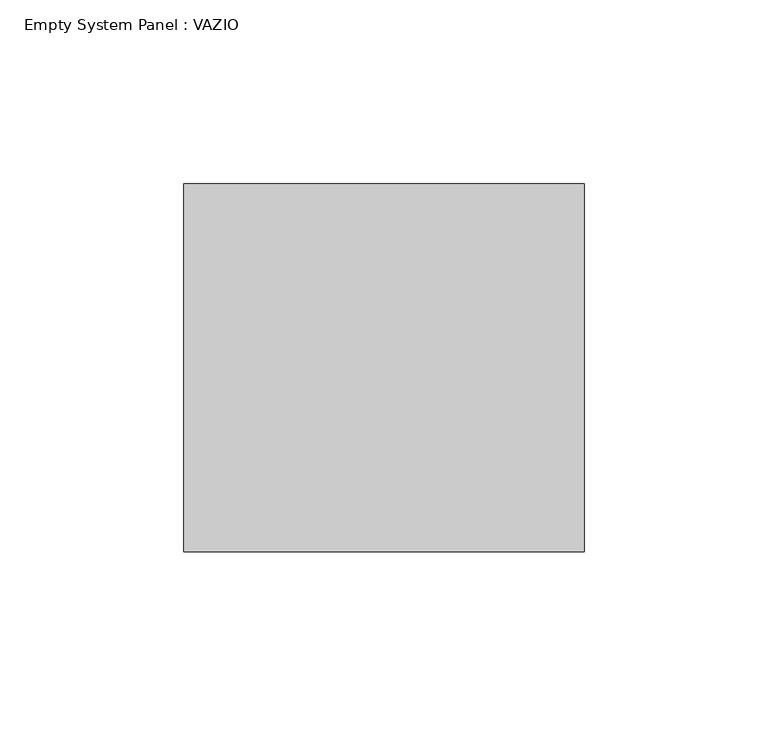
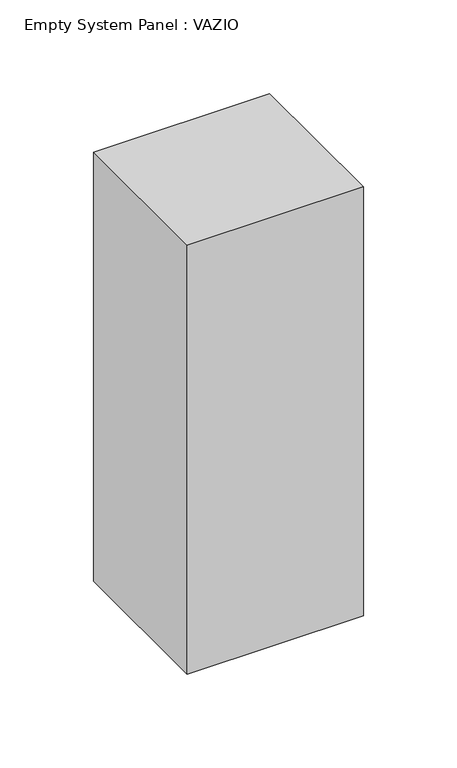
"""IFC4 building model written with IfcOpenShell, lengths in millimetres: plate geometry, Empty System Panel : VAZIO."""

import ifcopenshell
import ifcopenshell.guid

model = None  # the IFC model being written
_history = None  # IfcOwnerHistory: only IFC2X3 demands one
_inside = {}  # id of a spatial element -> (the spatial element, [elements in it])
_under = {}  # id of a project, library or spatial element -> (it, [spatial elements below it])
_declared = {}  # id of a project -> (the project, [libraries it declares])
_typed = {}  # id of a type object -> (the type object, [elements of that type])
_made_of = {}  # id of a material, layer set ... -> (it, [elements and type objects made of it])


def new_model(schema):
    """Start an empty IFC model of exactly this schema.

    Asked for "IFC4X3", IfcOpenShell would pick the latest addendum, in which some entities
    have other attributes; the version numbers below select the first issue.
    IFC2X3 requires an IfcOwnerHistory on every rooted entity: one is made here for all.
    """
    global model, _history
    if schema == "IFC4X3":
        model = ifcopenshell.file(schema_version=(4, 3, 0, 0))
    else:
        model = ifcopenshell.file(schema=schema)
    _inside.clear()
    _under.clear()
    _declared.clear()
    _typed.clear()
    _made_of.clear()
    _history = None
    if model.schema == "IFC2X3":
        org = make("IfcOrganization", Name="unknown")
        user = make(
            "IfcPersonAndOrganization",
            ThePerson=make("IfcPerson", FamilyName="unknown"),
            TheOrganization=org,
        )
        app = make(
            "IfcApplication",
            ApplicationDeveloper=org,
            Version="unknown",
            ApplicationFullName="unknown",
            ApplicationIdentifier="unknown",
        )
        _history = make(
            "IfcOwnerHistory",
            OwningUser=user,
            OwningApplication=app,
            ChangeAction="ADDED",
            CreationDate=0,
        )
    return model


def make(cls, **values):
    """One entity of the class cls with the attributes given. An attribute that is None is left unset."""
    return model.create_entity(
        cls, **{name: value for name, value in values.items() if value is not None}
    )


def rooted(cls, **values):
    """An entity with a GlobalId (a new one), such as an element, a storey or a relation."""
    return make(cls, GlobalId=ifcopenshell.guid.new(), OwnerHistory=_history, **values)


def si_unit(unit_type, name, prefix=None):
    """IfcSIUnit, for example si_unit("LENGTHUNIT", "METRE", prefix="MILLI")."""
    return make("IfcSIUnit", UnitType=unit_type, Prefix=prefix, Name=name)


def assignment(units):
    """IfcUnitAssignment: the units of a project."""
    return None if units is None else make("IfcUnitAssignment", Units=units)


def point(xyz):
    """IfcCartesianPoint."""
    return None if xyz is None else make("IfcCartesianPoint", Coordinates=xyz)


def direction(xyz):
    """IfcDirection."""
    return None if xyz is None else make("IfcDirection", DirectionRatios=xyz)


def frame(location, z_axis=None, x_axis=None):
    """IfcAxis2Placement3D, a coordinate frame: its origin and axes. An axis left out is left unset."""
    return make(
        "IfcAxis2Placement3D",
        Location=point(location),
        Axis=direction(z_axis),
        RefDirection=direction(x_axis),
    )


def origin():
    """The frame at (0, 0, 0) with its axes left unset."""
    return frame((0.0, 0.0, 0.0))


def origin_with_axes():
    """The frame at (0, 0, 0) with the z axis (0, 0, 1) and the x axis (1, 0, 0) written out."""
    return frame((0.0, 0.0, 0.0), z_axis=(0.0, 0.0, 1.0), x_axis=(1.0, 0.0, 0.0))


def place(relative_to, where):
    """IfcLocalPlacement: puts the frame where relative to a parent placement (None: the world)."""
    return make(
        "IfcLocalPlacement", PlacementRelTo=relative_to, RelativePlacement=where
    )


def context(
    kind, dimensions, precision=None, world=None, true_north=None, identifier=None
):
    """IfcGeometricRepresentationContext, for example the 3D "Model" context."""
    return make(
        "IfcGeometricRepresentationContext",
        ContextIdentifier=identifier,
        ContextType=kind,
        CoordinateSpaceDimension=dimensions,
        Precision=precision,
        WorldCoordinateSystem=world,
        TrueNorth=true_north,
    )


def project(units=None, contexts=None):
    """IfcProject with its units and contexts."""
    return rooted(
        "IfcProject",
        Name="project",
        RepresentationContexts=contexts,
        UnitsInContext=assignment(units),
    )


def spatial(cls, under=None, at=None, **own):
    """A site, building, storey or space (cls), placed at a placement, below another one or the project."""
    s = rooted(cls, ObjectPlacement=at, **own)
    if under is not None:
        _under.setdefault(under.id(), (under, []))[1].append(s)
    return s


def polyline(points):
    """IfcPolyline through the points."""
    return make("IfcPolyline", Points=[point(p) for p in points])


def outline(outer, holes=None, kind="AREA"):
    """IfcArbitraryClosedProfileDef: a profile drawn as a closed curve; with holes, ...WithVoids."""
    if holes is None:
        return make("IfcArbitraryClosedProfileDef", ProfileType=kind, OuterCurve=outer)
    return make(
        "IfcArbitraryProfileDefWithVoids",
        ProfileType=kind,
        OuterCurve=outer,
        InnerCurves=holes,
    )


def extrude(swept, where, along, depth):
    """IfcExtrudedAreaSolid: the profile swept, set in the frame where, extruded along a direction by depth."""
    return make(
        "IfcExtrudedAreaSolid",
        SweptArea=swept,
        Position=where,
        ExtrudedDirection=direction(along),
        Depth=depth,
    )


def shape(context_of_items, identifier, shape_type, items):
    """IfcShapeRepresentation: the items that make up one representation, for example the "Body"."""
    return make(
        "IfcShapeRepresentation",
        ContextOfItems=context_of_items,
        RepresentationIdentifier=identifier,
        RepresentationType=shape_type,
        Items=items,
    )


def source(mapping_origin, context_of_items, identifier, shape_type, items):
    """IfcRepresentationMap: a shape defined once, which mapped items show again and again."""
    return make(
        "IfcRepresentationMap",
        MappingOrigin=mapping_origin,
        MappedRepresentation=shape(context_of_items, identifier, shape_type, items),
    )


def transform(
    local_origin,
    x_axis=None,
    y_axis=None,
    z_axis=None,
    scale=None,
    scale2=None,
    scale3=None,
    uniform=True,
):
    """IfcCartesianTransformationOperator3D, or its non-uniform kind. x_axis, y_axis, z_axis: its Axis1, 2, 3."""
    if uniform:
        return make(
            "IfcCartesianTransformationOperator3D",
            Axis1=direction(x_axis),
            Axis2=direction(y_axis),
            LocalOrigin=point(local_origin),
            Scale=scale,
            Axis3=direction(z_axis),
        )
    return make(
        "IfcCartesianTransformationOperator3DnonUniform",
        Axis1=direction(x_axis),
        Axis2=direction(y_axis),
        LocalOrigin=point(local_origin),
        Scale=scale,
        Axis3=direction(z_axis),
        Scale2=scale2,
        Scale3=scale3,
    )


def mapped(mapping_source, mapping_target):
    """IfcMappedItem: shows the shape of a source again, moved by a transform."""
    return make(
        "IfcMappedItem", MappingSource=mapping_source, MappingTarget=mapping_target
    )


def made_of(thing, what):
    """Note that an element or type object is made of a material, layer set ...; save() writes the relation."""
    if what is not None:
        _made_of.setdefault(what.id(), (what, []))[1].append(thing)
    return thing


def element(
    cls,
    number,
    at=None,
    inside=None,
    cuts=None,
    type_object=None,
    material=None,
    context=None,
    identifier="Body",
    shape_type=None,
    held_by="IfcProductDefinitionShape",
    body=None,
    shapes=None,
    **own,
):
    """One element of the class cls, such as IfcWall. Its Tag is "e" and its number.

    at: its placement. inside: the storey or other place that contains it. cuts: it is an
    opening in that element (IfcRelVoidsElement). A single representation is given by context,
    identifier, shape_type and body (its items); several are given by shapes. held_by: the class
    of the entity that holds the representations. save() writes the other relations.
    """
    e = rooted(cls, Tag="e%d" % number, ObjectPlacement=at, **own)
    if body is not None:
        shapes = [shape(context, identifier, shape_type, body)]
    if shapes is not None:
        e.Representation = make(held_by, Representations=shapes)
    if inside is not None:
        _inside.setdefault(inside.id(), (inside, []))[1].append(e)
    if cuts is not None:
        rooted(
            "IfcRelVoidsElement", RelatingBuildingElement=cuts, RelatedOpeningElement=e
        )
    if type_object is not None:
        _typed.setdefault(type_object.id(), (type_object, []))[1].append(e)
    return made_of(e, material)


def aggregate(whole, parts):
    """IfcRelAggregates: a whole, such as a stair, and the parts it consists of."""
    return rooted("IfcRelAggregates", RelatingObject=whole, RelatedObjects=parts)


def save(model, path):
    """Write the relations noted so far, then the file.

    IfcRelAggregates (storeys below a building ...), IfcRelContainedInSpatialStructure (elements
    in a storey), IfcRelDefinesByType, IfcRelAssociatesMaterial and IfcRelDeclares: one each for
    every whole, place, type object, material and project.
    """
    for whole, parts in _under.values():
        aggregate(whole, parts)
    for where, things in _inside.values():
        rooted(
            "IfcRelContainedInSpatialStructure",
            RelatedElements=things,
            RelatingStructure=where,
        )
    for kind, things in _typed.values():
        rooted("IfcRelDefinesByType", RelatedObjects=things, RelatingType=kind)
    for what, things in _made_of.values():
        rooted("IfcRelAssociatesMaterial", RelatedObjects=things, RelatingMaterial=what)
    for by, libraries in _declared.values():
        rooted("IfcRelDeclares", RelatingContext=by, RelatedDefinitions=libraries)
    model.write(path)


def empty_system_panel_vazio_0cc84862(model_context):
    return source(origin(), model_context, "Body", "SweptSolid", [
        extrude(outline(polyline([(54.3902439, -50.0), (-54.3902439, -50.0), (-54.3902439, 50.0), (54.3902439, 50.0), (54.3902439, -50.0)])), origin_with_axes(), (0.0, 0.0, 1.0), 280.0),
    ])


if __name__ == "__main__":
    model = new_model("IFC4")
    model_context = context("Model", 3, world=origin())
    ifc_project = project(units=[si_unit("LENGTHUNIT", "METRE", prefix="MILLI")], contexts=[model_context])
    site = spatial("IfcSite", under=ifc_project)
    building = spatial("IfcBuilding", under=site)
    placement = place(None, origin())
    empty_system_panel_vazio_shape = empty_system_panel_vazio_0cc84862(model_context)
    element("IfcPlate", 1, ObjectType="Empty System Panel : VAZIO", at=placement, inside=building, context=model_context, shape_type="MappedRepresentation", body=[
        mapped(empty_system_panel_vazio_shape, transform((0.0, 0.0, 0.0), x_axis=(1.0, 0.0, 0.0), y_axis=(0.0, 1.0, 0.0), z_axis=(0.0, 0.0, 1.0))),
    ])
    save(model, "model.ifc")
